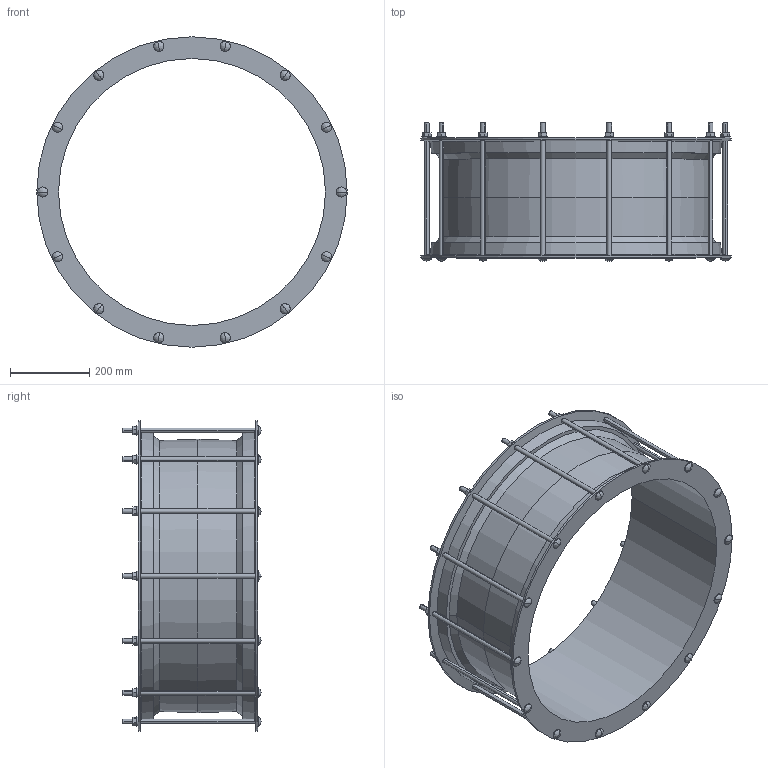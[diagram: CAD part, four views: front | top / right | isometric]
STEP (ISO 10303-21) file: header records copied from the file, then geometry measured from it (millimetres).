
FILE_DESCRIPTION((''),'2;1');
FILE_NAME('MAXIFIT_654_671','2018-12-18T',('mfairey'),('Glynwed Pipe Systems'),'CREO PARAMETRIC BY PTC INC, 2016130','CREO PARAMETRIC BY PTC INC, 2016130','');
FILE_SCHEMA(('CONFIG_CONTROL_DESIGN'));
Length unit declared in the file: millimetre
Products named in the file (1): MAXIFIT_654_671
Bounding box: 783 x 348 x 783 mm (x, y, z)
Volume: 9828248.4 mm3; surface area: 1898830.3 mm2
Topology: 1 solids, 1 shells, 292 faces, 708 edges, 444 vertices
Faces by surface type: plane 130, cylinder 118, bspline 28, cone 16
Entity records: 10586 total; most frequent: CARTESIAN_POINT 3818, DIRECTION 1370, ORIENTED_EDGE 1360, EDGE_CURVE 680, AXIS2_PLACEMENT_3D 490, VERTEX_POINT 444, VECTOR 390, LINE 390
